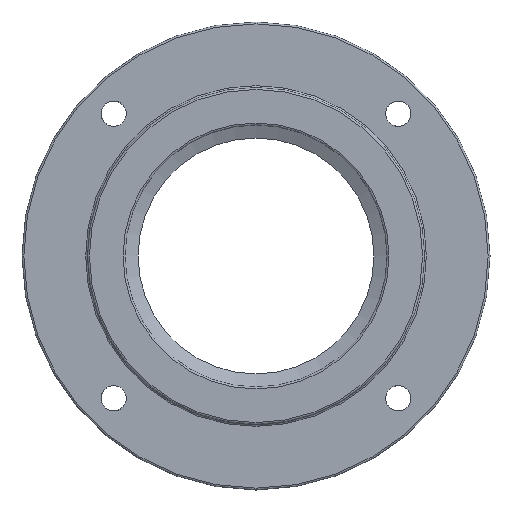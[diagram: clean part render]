
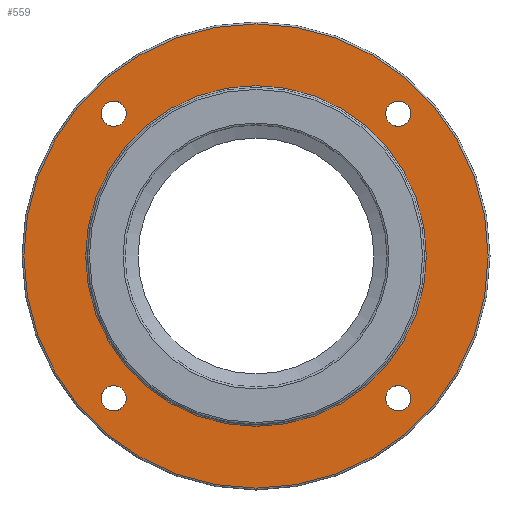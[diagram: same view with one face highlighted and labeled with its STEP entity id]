
A CAD part, front view. The second image highlights one B-rep face of the part: STEP entity #559.
In plain terms, the highlighted planar face has unit normal (0, -1, 0).
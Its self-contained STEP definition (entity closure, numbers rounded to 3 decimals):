
#124=CARTESIAN_POINT('',(-69.264,-26.5,76.014));
#125=VERTEX_POINT('',#124);
#126=CARTESIAN_POINT('',(-76.014,-26.5,76.014));
#127=DIRECTION('',(0.0,1.0,0.0));
#128=DIRECTION('',(1.0,0.0,0.0));
#129=AXIS2_PLACEMENT_3D('',#126,#127,#128);
#130=CIRCLE('',#129,6.75);
#131=EDGE_CURVE('',#125,#125,#130,.T.);
#192=CARTESIAN_POINT('',(-69.264,-26.5,-76.014));
#193=VERTEX_POINT('',#192);
#194=CARTESIAN_POINT('',(-76.014,-26.5,-76.014));
#195=DIRECTION('',(0.0,1.0,0.0));
#196=DIRECTION('',(1.0,0.0,0.0));
#197=AXIS2_PLACEMENT_3D('',#194,#195,#196);
#198=CIRCLE('',#197,6.75);
#199=EDGE_CURVE('',#193,#193,#198,.T.);
#260=CARTESIAN_POINT('',(82.764,-26.5,-76.014));
#261=VERTEX_POINT('',#260);
#262=CARTESIAN_POINT('',(76.014,-26.5,-76.014));
#263=DIRECTION('',(0.0,1.0,0.0));
#264=DIRECTION('',(1.0,0.0,0.0));
#265=AXIS2_PLACEMENT_3D('',#262,#263,#264);
#266=CIRCLE('',#265,6.75);
#267=EDGE_CURVE('',#261,#261,#266,.T.);
#328=CARTESIAN_POINT('',(82.764,-26.5,76.014));
#329=VERTEX_POINT('',#328);
#330=CARTESIAN_POINT('',(76.014,-26.5,76.014));
#331=DIRECTION('',(0.0,1.0,0.0));
#332=DIRECTION('',(1.0,0.0,0.0));
#333=AXIS2_PLACEMENT_3D('',#330,#331,#332);
#334=CIRCLE('',#333,6.75);
#335=EDGE_CURVE('',#329,#329,#334,.T.);
#513=CARTESIAN_POINT('',(-124.0,-26.5,0.0));
#514=VERTEX_POINT('',#513);
#515=CARTESIAN_POINT('',(0.0,-26.5,0.0));
#516=DIRECTION('',(0.0,1.0,0.0));
#517=DIRECTION('',(1.0,0.0,0.0));
#518=AXIS2_PLACEMENT_3D('',#515,#516,#517);
#519=CIRCLE('',#518,124.0);
#520=EDGE_CURVE('',#514,#514,#519,.T.);
#528=CARTESIAN_POINT('',(-107.5,-26.5,0.));
#529=DIRECTION('',(0.0,-1.0,0.0));
#530=DIRECTION('',(0.0,0.0,-1.0));
#531=AXIS2_PLACEMENT_3D('',#528,#529,#530);
#532=PLANE('',#531);
#533=ORIENTED_EDGE('',*,*,#520,.F.);
#534=EDGE_LOOP('',(#533));
#535=FACE_OUTER_BOUND('',#534,.T.);
#536=ORIENTED_EDGE('',*,*,#131,.T.);
#537=EDGE_LOOP('',(#536));
#538=FACE_BOUND('',#537,.T.);
#539=ORIENTED_EDGE('',*,*,#199,.T.);
#540=EDGE_LOOP('',(#539));
#541=FACE_BOUND('',#540,.T.);
#542=ORIENTED_EDGE('',*,*,#267,.T.);
#543=EDGE_LOOP('',(#542));
#544=FACE_BOUND('',#543,.T.);
#545=ORIENTED_EDGE('',*,*,#335,.T.);
#546=EDGE_LOOP('',(#545));
#547=FACE_BOUND('',#546,.T.);
#548=CARTESIAN_POINT('',(-91.0,-26.5,0.));
#549=VERTEX_POINT('',#548);
#550=CARTESIAN_POINT('',(0.0,-26.5,0.0));
#551=DIRECTION('',(0.0,-1.0,0.0));
#552=DIRECTION('',(1.0,0.0,0.0));
#553=AXIS2_PLACEMENT_3D('',#550,#551,#552);
#554=CIRCLE('',#553,91.0);
#555=EDGE_CURVE('',#549,#549,#554,.T.);
#556=ORIENTED_EDGE('',*,*,#555,.F.);
#557=EDGE_LOOP('',(#556));
#558=FACE_BOUND('',#557,.T.);
#559=ADVANCED_FACE('',(#535,#538,#541,#544,#547,#558),#532,.T.);
